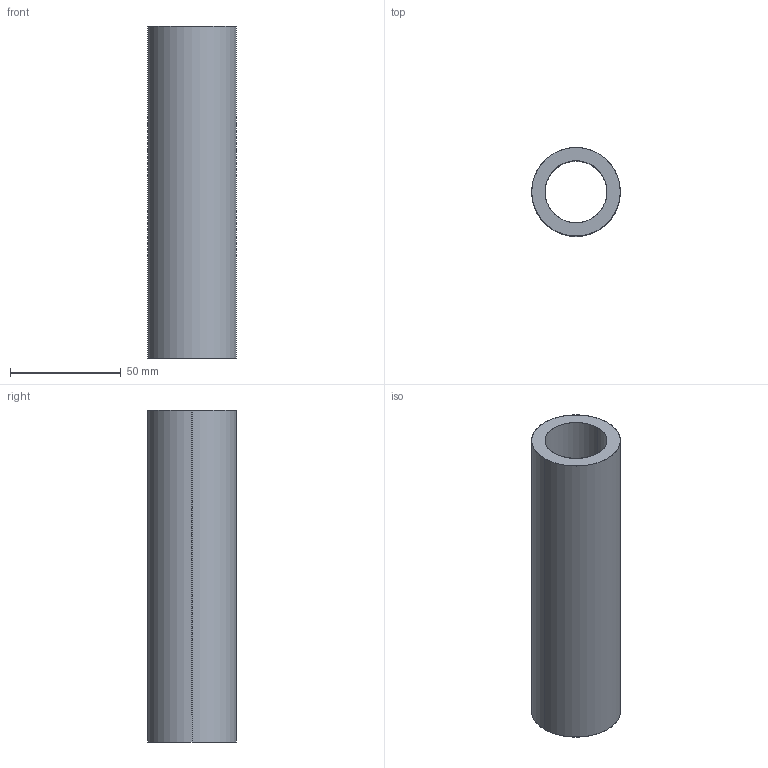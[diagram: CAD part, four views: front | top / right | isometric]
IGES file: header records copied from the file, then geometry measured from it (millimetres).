
Start section: SolidWorks IGES file using analytic representation for surfaces
Global section: file name: C:\Users\IanO\Desktop\L1771_v2\L1771.40_v2\L1771.40_v2_20230705_IGES\L1771.40-0150.igs; native system: SolidWorks 2019; preprocessor: SolidWorks 2019; author: IanO; date: 230705.155757; units: millimetre
Bounding box: 40 x 40 x 150 mm (x, y, z)
Surface area: 33326 mm2 (no closed solid volume)
Topology: 0 solids, 0 shells, 6 faces, 272 edges, 272 vertices
Faces by surface type: revolution 4, bspline 2
